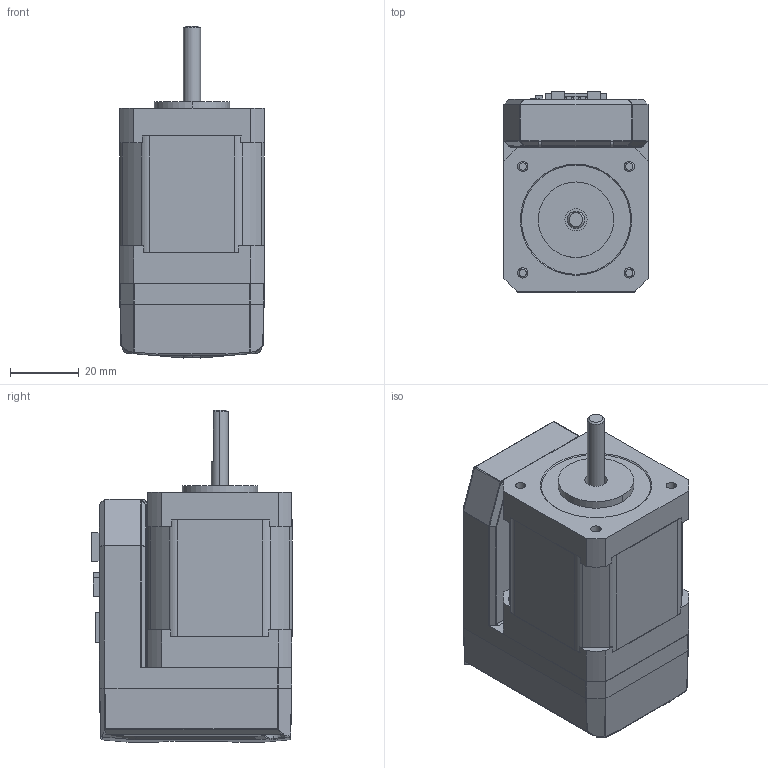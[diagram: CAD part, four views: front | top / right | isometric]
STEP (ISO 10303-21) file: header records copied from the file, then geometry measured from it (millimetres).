
FILE_DESCRIPTION((''),'2;1');
FILE_NAME('ICL42-RS06-ALL_ASM','2021-11-16T13:39:15',('chensf'),(''),'CREO PARAMETRIC BY PTC INC, 2019010','CREO PARAMETRIC BY PTC INC, 2019010','');
FILE_SCHEMA(('CONFIG_CONTROL_DESIGN','GEOMETRIC_VALIDATION_PROPERTIES_MIM'));
Products named in the file (25): ______-3-26080; ____-3-4; __-3; ____-3-6; ______-3-10547; 42DJ_ASM; ICL42-RS06-TOP; ICL42-RS06-BOT; ICL42-RS06-BACK; ICL42-RS06-BODY-ALL_ASM; PCB1; PCB2; 5P-PAIZHEN; 5P-PAIMU; 6P-PAIZHEN; 6P-PAIMU; 1_27CB; EPUD; 2P-381; B04B-ZESK-1D; HEADER_2_0_4X; LED-RED; 127-CB-Q; 42-PCB-ALL_ASM; ICL42-RS06-ALL_ASM
Assembly tree (30 placements, depth 3):
  ICL42-RS06-ALL_ASM
    42DJ_ASM
      ______-3-26080
      ____-3-4
      __-3
      ____-3-6  x3
      ______-3-10547
    ICL42-RS06-BODY-ALL_ASM
      ICL42-RS06-TOP
      ICL42-RS06-BOT
      ICL42-RS06-BACK
      ____-3-6  x2
    42-PCB-ALL_ASM
      PCB1
      PCB2
      5P-PAIZHEN
      5P-PAIMU
      6P-PAIZHEN
      6P-PAIMU
      1_27CB
      EPUD
      2P-381
      B04B-ZESK-1D  x2
      HEADER_2_0_4X
      LED-RED  x2
      127-CB-Q
Bounding box: 42.13 x 58.37 x 96.7 mm (x, y, z)
Volume: 96006.8 mm3; surface area: 73051.2 mm2
Topology: 27 solids, 27 shells, 4408 faces, 10577 edges, 6393 vertices
Faces by surface type: plane 2135, cone 1682, cylinder 478, bspline 49, sphere 36, torus 28
Entity records: 123648 total; most frequent: CARTESIAN_POINT 17435, ORIENTED_EDGE 14654, DIRECTION 14502, PRESENTATION_STYLE_ASSIGNMENT 8086, EDGE_CURVE 7327, STYLED_ITEM 6744, CURVE_STYLE 6676, VECTOR 5810
